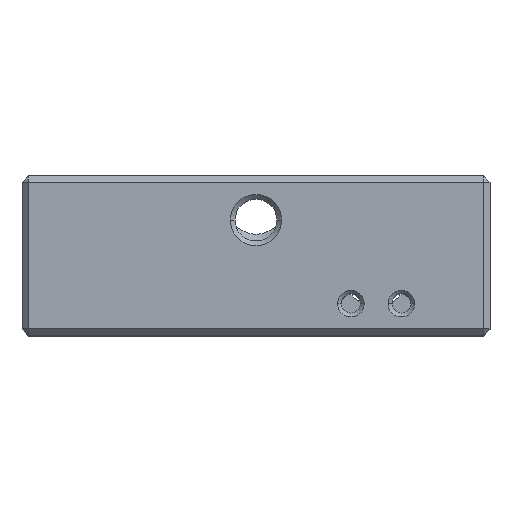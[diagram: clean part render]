
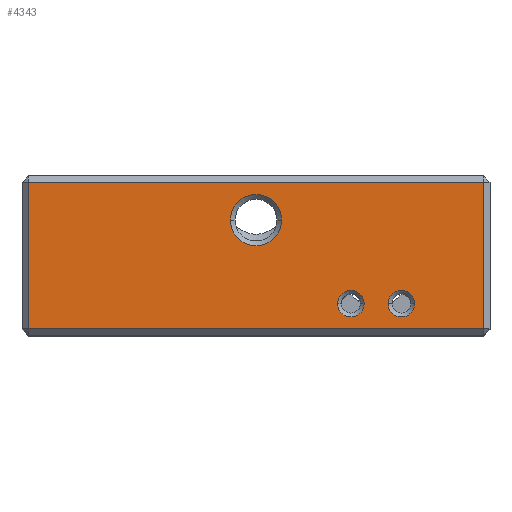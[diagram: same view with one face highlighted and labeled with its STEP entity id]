
A CAD part, top view. The second image highlights one B-rep face of the part: STEP entity #4343.
In plain terms, the highlighted planar face has unit normal (0, 0, 1).
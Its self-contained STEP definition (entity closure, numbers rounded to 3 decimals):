
#2 = DIRECTION ( 'NONE',  ( -1., 0., 0. ) ) ;
#85 = CARTESIAN_POINT ( 'NONE',  ( -18.5, 0.5, 22. ) ) ;
#259 = DIRECTION ( 'NONE',  ( 0., 0., -1. ) ) ;
#275 = DIRECTION ( 'NONE',  ( 1., 0., 0. ) ) ;
#358 = DIRECTION ( 'NONE',  ( -1., 0., 0. ) ) ;
#533 = DIRECTION ( 'NONE',  ( -1., 0., 0. ) ) ;
#598 = VERTEX_POINT ( 'NONE', #1147 ) ;
#731 = EDGE_CURVE ( 'NONE', #1541, #4744, #1223, .T. ) ;
#792 = VERTEX_POINT ( 'NONE', #1297 ) ;
#793 = EDGE_CURVE ( 'NONE', #3320, #1607, #3171, .T. ) ;
#796 = CARTESIAN_POINT ( 'NONE',  ( 18., 14.2, 22. ) ) ;
#847 = CARTESIAN_POINT ( 'NONE',  ( -18., 0.5, 22. ) ) ;
#859 = VERTEX_POINT ( 'NONE', #3546 ) ;
#895 = CARTESIAN_POINT ( 'NONE',  ( -18., 14.2, 22. ) ) ;
#978 = CARTESIAN_POINT ( 'NONE',  ( 0., 9.1, 22. ) ) ;
#990 = CARTESIAN_POINT ( 'NONE',  ( 8.55, 2.5, 22. ) ) ;
#1006 = CARTESIAN_POINT ( 'NONE',  ( 11.5, 2.5, 22. ) ) ;
#1051 = EDGE_LOOP ( 'NONE', ( #4333, #3371, #4776, #2322 ) ) ;
#1102 = CARTESIAN_POINT ( 'NONE',  ( 0., 9.1, 22. ) ) ;
#1147 = CARTESIAN_POINT ( 'NONE',  ( 12.55, 2.5, 22. ) ) ;
#1223 = LINE ( 'NONE', #85, #2335 ) ;
#1229 = FACE_BOUND ( 'NONE', #3844, .T. ) ;
#1263 = FACE_OUTER_BOUND ( 'NONE', #1051, .T. ) ;
#1285 = CIRCLE ( 'NONE', #2976, 1.05 ) ;
#1297 = CARTESIAN_POINT ( 'NONE',  ( 18., 12.1, 22. ) ) ;
#1310 = AXIS2_PLACEMENT_3D ( 'NONE', #3419, #1461, #2 ) ;
#1350 = DIRECTION ( 'NONE',  ( -1., 0., 0. ) ) ;
#1360 = DIRECTION ( 'NONE',  ( 0., 0., -1. ) ) ;
#1394 = AXIS2_PLACEMENT_3D ( 'NONE', #1006, #3690, #2493 ) ;
#1402 = EDGE_CURVE ( 'NONE', #4065, #859, #3946, .T. ) ;
#1461 = DIRECTION ( 'NONE',  ( 0., 0., -1. ) ) ;
#1495 = DIRECTION ( 'NONE',  ( 0., 0., 1. ) ) ;
#1541 = VERTEX_POINT ( 'NONE', #847 ) ;
#1544 = DIRECTION ( 'NONE',  ( 1., 0., 0. ) ) ;
#1607 = VERTEX_POINT ( 'NONE', #2847 ) ;
#1691 = ORIENTED_EDGE ( 'NONE', *, *, #1402, .T. ) ;
#1808 = EDGE_LOOP ( 'NONE', ( #2648, #3554 ) ) ;
#1912 = VERTEX_POINT ( 'NONE', #2404 ) ;
#2118 = EDGE_CURVE ( 'NONE', #4744, #792, #2611, .T. ) ;
#2204 = AXIS2_PLACEMENT_3D ( 'NONE', #1102, #1495, #2582 ) ;
#2322 = ORIENTED_EDGE ( 'NONE', *, *, #2118, .T. ) ;
#2325 = FACE_BOUND ( 'NONE', #4804, .T. ) ;
#2335 = VECTOR ( 'NONE', #1544, 1000. ) ;
#2366 = EDGE_CURVE ( 'NONE', #598, #1912, #2632, .T. ) ;
#2404 = CARTESIAN_POINT ( 'NONE',  ( 10.45, 2.5, 22. ) ) ;
#2427 = CARTESIAN_POINT ( 'NONE',  ( 18., 0.5, 22. ) ) ;
#2493 = DIRECTION ( 'NONE',  ( -1., 0., 0. ) ) ;
#2517 = CIRCLE ( 'NONE', #2204, 2.025 ) ;
#2582 = DIRECTION ( 'NONE',  ( 1., 0., 0. ) ) ;
#2611 = LINE ( 'NONE', #796, #3953 ) ;
#2632 = CIRCLE ( 'NONE', #1394, 1.05 ) ;
#2636 = VECTOR ( 'NONE', #3513, 1000. ) ;
#2648 = ORIENTED_EDGE ( 'NONE', *, *, #2366, .T. ) ;
#2662 = LINE ( 'NONE', #4149, #2784 ) ;
#2709 = DIRECTION ( 'NONE',  ( 0., 0., -1. ) ) ;
#2718 = AXIS2_PLACEMENT_3D ( 'NONE', #978, #2791, #275 ) ;
#2749 = EDGE_CURVE ( 'NONE', #1912, #598, #3991, .T. ) ;
#2784 = VECTOR ( 'NONE', #358, 1000. ) ;
#2791 = DIRECTION ( 'NONE',  ( 0., 0., 1. ) ) ;
#2847 = CARTESIAN_POINT ( 'NONE',  ( -2.025, 9.1, 22. ) ) ;
#2883 = EDGE_CURVE ( 'NONE', #859, #4065, #1285, .T. ) ;
#2976 = AXIS2_PLACEMENT_3D ( 'NONE', #3258, #259, #1350 ) ;
#3171 = CIRCLE ( 'NONE', #2718, 2.025 ) ;
#3251 = VERTEX_POINT ( 'NONE', #4723 ) ;
#3258 = CARTESIAN_POINT ( 'NONE',  ( 7.5, 2.5, 22. ) ) ;
#3288 = CARTESIAN_POINT ( 'NONE',  ( 11.5, 2.5, 22. ) ) ;
#3320 = VERTEX_POINT ( 'NONE', #3745 ) ;
#3340 = EDGE_CURVE ( 'NONE', #1607, #3320, #2517, .T. ) ;
#3371 = ORIENTED_EDGE ( 'NONE', *, *, #4357, .T. ) ;
#3419 = CARTESIAN_POINT ( 'NONE',  ( 7.5, 2.5, 22. ) ) ;
#3462 = PLANE ( 'NONE',  #3563 ) ;
#3513 = DIRECTION ( 'NONE',  ( 0., -1., 0. ) ) ;
#3546 = CARTESIAN_POINT ( 'NONE',  ( 6.45, 2.5, 22. ) ) ;
#3554 = ORIENTED_EDGE ( 'NONE', *, *, #2749, .T. ) ;
#3563 = AXIS2_PLACEMENT_3D ( 'NONE', #4618, #2709, #533 ) ;
#3662 = DIRECTION ( 'NONE',  ( 0., 1., 0. ) ) ;
#3665 = DIRECTION ( 'NONE',  ( -1., 0., 0. ) ) ;
#3690 = DIRECTION ( 'NONE',  ( 0., 0., -1. ) ) ;
#3712 = ORIENTED_EDGE ( 'NONE', *, *, #3340, .F. ) ;
#3745 = CARTESIAN_POINT ( 'NONE',  ( 2.025, 9.1, 22. ) ) ;
#3844 = EDGE_LOOP ( 'NONE', ( #4147, #3712 ) ) ;
#3860 = ORIENTED_EDGE ( 'NONE', *, *, #2883, .T. ) ;
#3946 = CIRCLE ( 'NONE', #1310, 1.05 ) ;
#3953 = VECTOR ( 'NONE', #3662, 1000. ) ;
#3991 = CIRCLE ( 'NONE', #4309, 1.05 ) ;
#4065 = VERTEX_POINT ( 'NONE', #990 ) ;
#4114 = EDGE_CURVE ( 'NONE', #792, #3251, #2662, .T. ) ;
#4147 = ORIENTED_EDGE ( 'NONE', *, *, #793, .F. ) ;
#4149 = CARTESIAN_POINT ( 'NONE',  ( -18.5, 12.1, 22. ) ) ;
#4202 = LINE ( 'NONE', #895, #2636 ) ;
#4309 = AXIS2_PLACEMENT_3D ( 'NONE', #3288, #1360, #3665 ) ;
#4333 = ORIENTED_EDGE ( 'NONE', *, *, #4114, .T. ) ;
#4343 = ADVANCED_FACE ( 'NONE', ( #1263, #4544, #2325, #1229 ), #3462, .F. ) ;
#4357 = EDGE_CURVE ( 'NONE', #3251, #1541, #4202, .T. ) ;
#4544 = FACE_BOUND ( 'NONE', #1808, .T. ) ;
#4618 = CARTESIAN_POINT ( 'NONE',  ( -18.5, 14.2, 22. ) ) ;
#4723 = CARTESIAN_POINT ( 'NONE',  ( -18., 12.1, 22. ) ) ;
#4744 = VERTEX_POINT ( 'NONE', #2427 ) ;
#4776 = ORIENTED_EDGE ( 'NONE', *, *, #731, .T. ) ;
#4804 = EDGE_LOOP ( 'NONE', ( #1691, #3860 ) ) ;
